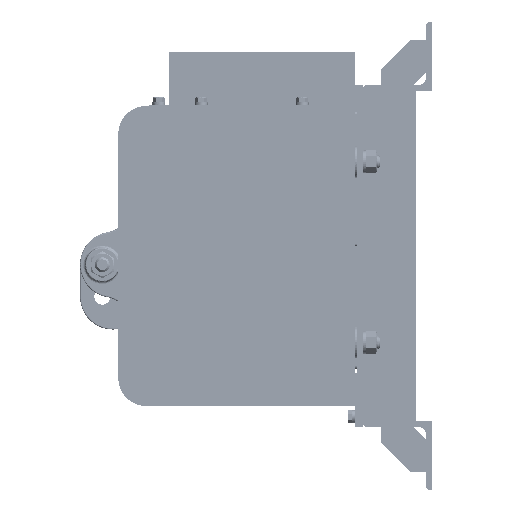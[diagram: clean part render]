
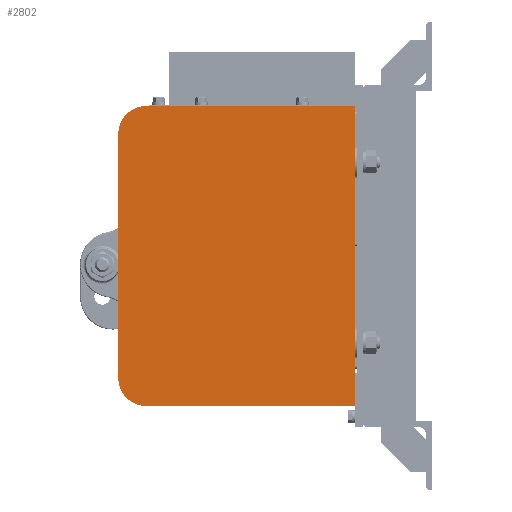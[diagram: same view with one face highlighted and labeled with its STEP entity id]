
A CAD part, left-side view. The second image highlights one B-rep face of the part: STEP entity #2802.
In plain terms, the highlighted planar face has unit normal (-1, 0, 0).
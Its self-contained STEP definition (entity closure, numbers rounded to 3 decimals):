
#2802=ADVANCED_FACE('',(#31258),#31257,.F.);
#31257=PLANE('',#90832);
#31258=FACE_OUTER_BOUND('',#90833,.T.);
#90829=CARTESIAN_POINT('',(-1234.507,-1037.059,-1112.508));
#90830=DIRECTION('',(1.,0.,0.));
#90831=DIRECTION('',(0.,0.,-1.));
#90832=AXIS2_PLACEMENT_3D('',#90829,#90830,#90831);
#90833=EDGE_LOOP('',(#118734,#118735,#118736,#118737,#118738,#118739));
#118734=ORIENTED_EDGE('',*,*,#136684,.F.);
#118735=ORIENTED_EDGE('',*,*,#136685,.F.);
#118736=ORIENTED_EDGE('',*,*,#136686,.F.);
#118737=ORIENTED_EDGE('',*,*,#136687,.F.);
#118738=ORIENTED_EDGE('',*,*,#136688,.F.);
#118739=ORIENTED_EDGE('',*,*,#136689,.F.);
#136684=EDGE_CURVE('',#194532,#194533,#194534,.T.);
#136685=EDGE_CURVE('',#194540,#194532,#194541,.T.);
#136686=EDGE_CURVE('',#194547,#194540,#194548,.T.);
#136687=EDGE_CURVE('',#194554,#194547,#194555,.T.);
#136688=EDGE_CURVE('',#194561,#194554,#194562,.T.);
#136689=EDGE_CURVE('',#194533,#194561,#194568,.T.);
#194532=VERTEX_POINT('',#266022);
#194533=VERTEX_POINT('',#266023);
#194534=CIRCLE('',#266027,26.);
#194540=VERTEX_POINT('',#266028);
#194541=LINE('',#266029,#266030);
#194547=VERTEX_POINT('',#266032);
#194548=CIRCLE('',#266036,26.);
#194554=VERTEX_POINT('',#266037);
#194555=LINE('',#266038,#266039);
#194561=VERTEX_POINT('',#266041);
#194562=LINE('',#266042,#266043);
#194568=LINE('',#266045,#266046);
#266022=CARTESIAN_POINT('',(-1234.507,-804.059,-1148.508));
#266023=CARTESIAN_POINT('',(-1234.507,-830.059,-1122.508));
#266024=CARTESIAN_POINT('',(-1234.507,-830.059,-1148.508));
#266025=DIRECTION('',(1.,0.,0.));
#266026=DIRECTION('',(0.,0.,1.));
#266027=AXIS2_PLACEMENT_3D('',#266024,#266025,#266026);
#266028=CARTESIAN_POINT('',(-1234.507,-804.059,-1378.508));
#266029=CARTESIAN_POINT('',(-1234.507,-804.059,-1378.508));
#266030=VECTOR('',#266031,230.);
#266031=DIRECTION('',(0.,0.,1.));
#266032=CARTESIAN_POINT('',(-1234.507,-830.059,-1404.508));
#266033=CARTESIAN_POINT('',(-1234.507,-830.059,-1378.508));
#266034=DIRECTION('',(1.,0.,0.));
#266035=DIRECTION('',(0.,0.,1.));
#266036=AXIS2_PLACEMENT_3D('',#266033,#266034,#266035);
#266037=CARTESIAN_POINT('',(-1234.507,-1027.059,-1404.508));
#266038=CARTESIAN_POINT('',(-1234.507,-1027.059,-1404.508));
#266039=VECTOR('',#266040,197.);
#266040=DIRECTION('',(0.,1.,0.));
#266041=CARTESIAN_POINT('',(-1234.507,-1027.059,-1122.508));
#266042=CARTESIAN_POINT('',(-1234.507,-1027.059,-1122.508));
#266043=VECTOR('',#266044,282.);
#266044=DIRECTION('',(0.,0.,-1.));
#266045=CARTESIAN_POINT('',(-1234.507,-830.059,-1122.508));
#266046=VECTOR('',#266047,197.);
#266047=DIRECTION('',(0.,-1.,0.));
